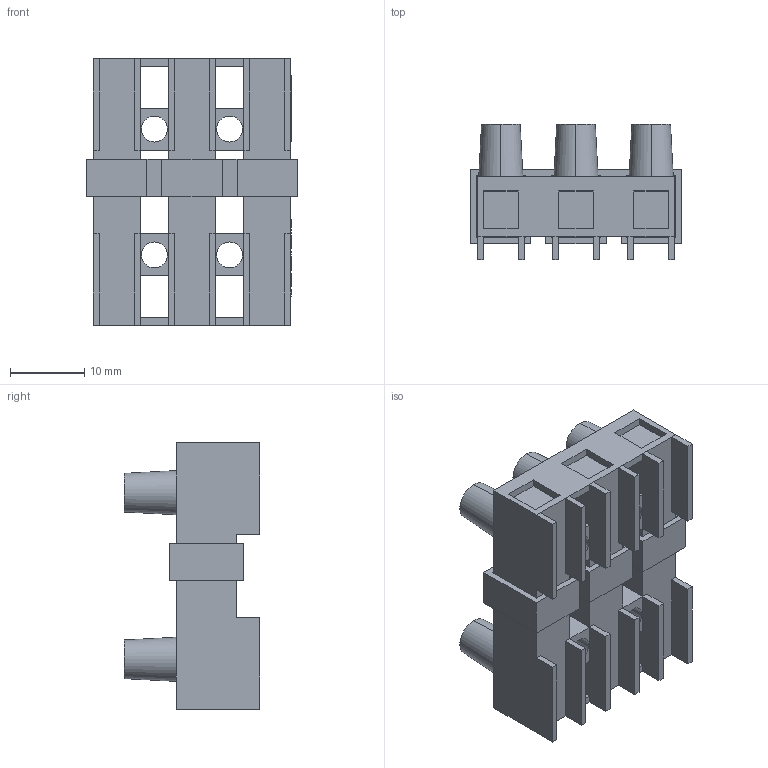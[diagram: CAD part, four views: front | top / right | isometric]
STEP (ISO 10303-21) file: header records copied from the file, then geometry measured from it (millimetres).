
FILE_DESCRIPTION((' '),'1');
FILE_NAME('007YR03Y07.stp','2010-03-04 T15:08:03',(' '),(' '),'STEP Interface v1.0 by CT CoreTechnologie','3D_Evolution v1.0 by CT CoreTechnologie',' ');
FILE_SCHEMA(('CONFIG_CONTROL_DESIGN'));
Length unit declared in the file: millimetre
Products named in the file (1): 007YR03Y07
Bounding box: 28.4 x 18.2 x 35.8 mm (x, y, z)
Volume: 7213.3 mm3; surface area: 7597.2 mm2
Topology: 2 solids, 2 shells, 374 faces, 974 edges, 651 vertices
Faces by surface type: plane 293, bspline 45, cylinder 36
Entity records: 16182 total; most frequent: CARTESIAN_POINT 3621, ORIENTED_EDGE 1948, DIRECTION 1759, EDGE_CURVE 974, VECTOR 765, LINE 765, VERTEX_POINT 651, AXIS2_PLACEMENT_3D 497
